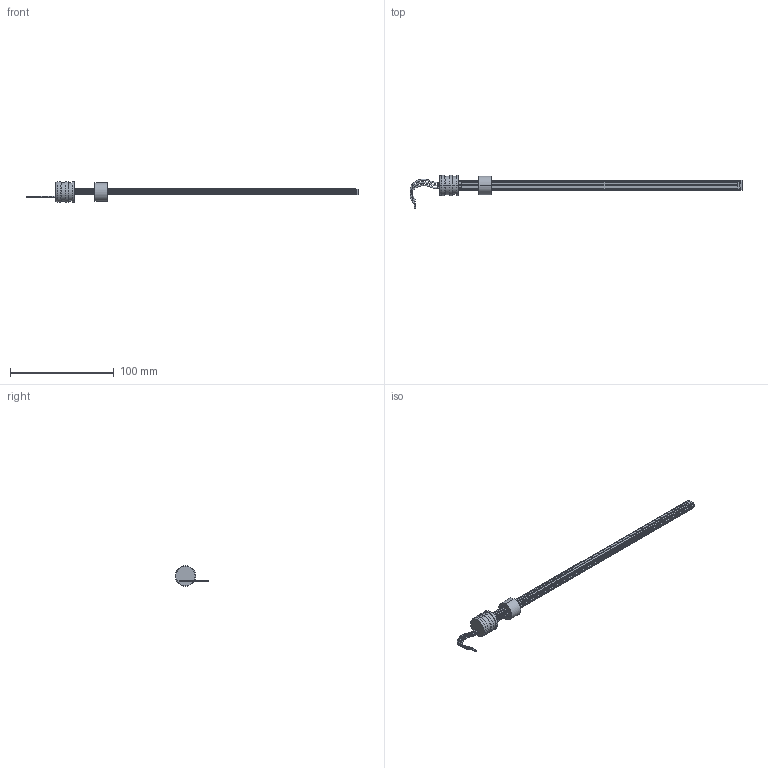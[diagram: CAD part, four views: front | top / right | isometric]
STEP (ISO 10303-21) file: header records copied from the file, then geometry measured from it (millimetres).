
FILE_DESCRIPTION (( 'STEP AP203' ), '1' );
FILE_NAME ('PS6505-regal.step', '2009-04-08T07:05:10', ( 'Gustaf Hederström' ), ( 'Cevican AB' ), 'SwSTEP 2.0', 'SolidWorks 2002308', '' );
FILE_SCHEMA (( 'CONFIG_CONTROL_DESIGN' ));
Length unit declared in the file: millimetre
Products named in the file (3): PS6505-regal; 30-0027_SW0001_6505; WIPER6500-4
Assembly tree (2 placements, depth 2):
  PS6505-regal
    30-0027_SW0001_6505
    WIPER6500-4
Bounding box: 319.62 x 32.31 x 19.7 mm (x, y, z)
Volume: 20185.1 mm3; surface area: 13682.2 mm2
Topology: 2 solids, 3 shells, 207 faces, 560 edges, 359 vertices
Faces by surface type: plane 92, cylinder 76, bspline 35, cone 4
Entity records: 8105 total; most frequent: CARTESIAN_POINT 2589, ORIENTED_EDGE 1120, DIRECTION 1082, EDGE_CURVE 560, AXIS2_PLACEMENT_3D 387, VERTEX_POINT 359, LINE 308, VECTOR 308
